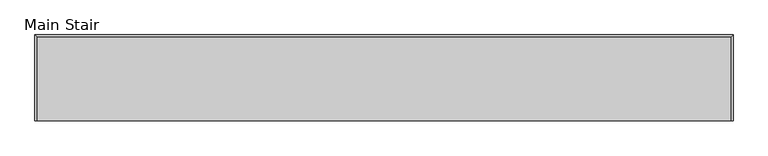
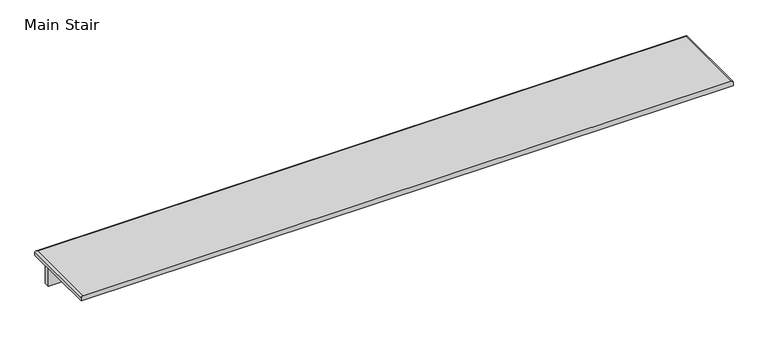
"""IFC4 building model written with IfcOpenShell, lengths in millimetres: stair flight geometry, Main Stair."""

import ifcopenshell
import ifcopenshell.guid

model = None  # the IFC model being written
_history = None  # IfcOwnerHistory: only IFC2X3 demands one
_inside = {}  # id of a spatial element -> (the spatial element, [elements in it])
_under = {}  # id of a project, library or spatial element -> (it, [spatial elements below it])
_declared = {}  # id of a project -> (the project, [libraries it declares])
_typed = {}  # id of a type object -> (the type object, [elements of that type])
_made_of = {}  # id of a material, layer set ... -> (it, [elements and type objects made of it])


def new_model(schema):
    """Start an empty IFC model of exactly this schema.

    Asked for "IFC4X3", IfcOpenShell would pick the latest addendum, in which some entities
    have other attributes; the version numbers below select the first issue.
    IFC2X3 requires an IfcOwnerHistory on every rooted entity: one is made here for all.
    """
    global model, _history
    if schema == "IFC4X3":
        model = ifcopenshell.file(schema_version=(4, 3, 0, 0))
    else:
        model = ifcopenshell.file(schema=schema)
    _inside.clear()
    _under.clear()
    _declared.clear()
    _typed.clear()
    _made_of.clear()
    _history = None
    if model.schema == "IFC2X3":
        org = make("IfcOrganization", Name="unknown")
        user = make(
            "IfcPersonAndOrganization",
            ThePerson=make("IfcPerson", FamilyName="unknown"),
            TheOrganization=org,
        )
        app = make(
            "IfcApplication",
            ApplicationDeveloper=org,
            Version="unknown",
            ApplicationFullName="unknown",
            ApplicationIdentifier="unknown",
        )
        _history = make(
            "IfcOwnerHistory",
            OwningUser=user,
            OwningApplication=app,
            ChangeAction="ADDED",
            CreationDate=0,
        )
    return model


def make(cls, **values):
    """One entity of the class cls with the attributes given. An attribute that is None is left unset."""
    return model.create_entity(
        cls, **{name: value for name, value in values.items() if value is not None}
    )


def rooted(cls, **values):
    """An entity with a GlobalId (a new one), such as an element, a storey or a relation."""
    return make(cls, GlobalId=ifcopenshell.guid.new(), OwnerHistory=_history, **values)


def si_unit(unit_type, name, prefix=None):
    """IfcSIUnit, for example si_unit("LENGTHUNIT", "METRE", prefix="MILLI")."""
    return make("IfcSIUnit", UnitType=unit_type, Prefix=prefix, Name=name)


def assignment(units):
    """IfcUnitAssignment: the units of a project."""
    return None if units is None else make("IfcUnitAssignment", Units=units)


def point(xyz):
    """IfcCartesianPoint."""
    return None if xyz is None else make("IfcCartesianPoint", Coordinates=xyz)


def direction(xyz):
    """IfcDirection."""
    return None if xyz is None else make("IfcDirection", DirectionRatios=xyz)


def frame(location, z_axis=None, x_axis=None):
    """IfcAxis2Placement3D, a coordinate frame: its origin and axes. An axis left out is left unset."""
    return make(
        "IfcAxis2Placement3D",
        Location=point(location),
        Axis=direction(z_axis),
        RefDirection=direction(x_axis),
    )


def origin():
    """The frame at (0, 0, 0) with its axes left unset."""
    return frame((0.0, 0.0, 0.0))


def place(relative_to, where):
    """IfcLocalPlacement: puts the frame where relative to a parent placement (None: the world)."""
    return make(
        "IfcLocalPlacement", PlacementRelTo=relative_to, RelativePlacement=where
    )


def context(
    kind, dimensions, precision=None, world=None, true_north=None, identifier=None
):
    """IfcGeometricRepresentationContext, for example the 3D "Model" context."""
    return make(
        "IfcGeometricRepresentationContext",
        ContextIdentifier=identifier,
        ContextType=kind,
        CoordinateSpaceDimension=dimensions,
        Precision=precision,
        WorldCoordinateSystem=world,
        TrueNorth=true_north,
    )


def project(units=None, contexts=None):
    """IfcProject with its units and contexts."""
    return rooted(
        "IfcProject",
        Name="project",
        RepresentationContexts=contexts,
        UnitsInContext=assignment(units),
    )


def spatial(cls, under=None, at=None, **own):
    """A site, building, storey or space (cls), placed at a placement, below another one or the project."""
    s = rooted(cls, ObjectPlacement=at, **own)
    if under is not None:
        _under.setdefault(under.id(), (under, []))[1].append(s)
    return s


def circle_curve(where, radius):
    """IfcCircle in the frame where."""
    return make("IfcCircle", Position=where, Radius=radius)


def ellipse_curve(where, semi_axis1, semi_axis2):
    """IfcEllipse in the frame where."""
    return make(
        "IfcEllipse", Position=where, SemiAxis1=semi_axis1, SemiAxis2=semi_axis2
    )


def faces_of(points, faces, orient=None, outer=None):
    """IfcFace entities. A face is a list of loops; a loop is a list of indices into points, from 0.

    orient and outer hold one flag for each loop. By default every Orientation is true, the
    first loop of a face is its IfcFaceOuterBound and the others are IfcFaceBound.
    """
    made = []
    for i, loops in enumerate(faces):
        bounds = []
        for j, loop in enumerate(loops):
            is_outer = j == 0 if outer is None else outer[i][j]
            bounds.append(
                make(
                    "IfcFaceOuterBound" if is_outer else "IfcFaceBound",
                    Bound=make("IfcPolyLoop", Polygon=[points[k] for k in loop]),
                    Orientation=True if orient is None else orient[i][j],
                )
            )
        made.append(make("IfcFace", Bounds=bounds))
    return made


def faceted_brep(points, faces, orient=None, outer=None, voids=None):
    """IfcFacetedBrep: a solid bounded by flat faces; with voids (closed shells), ...WithVoids."""
    shared = [point(p) for p in points]
    hull = make("IfcClosedShell", CfsFaces=faces_of(shared, faces, orient, outer))
    if voids is None:
        return make("IfcFacetedBrep", Outer=hull)
    return make(
        "IfcFacetedBrepWithVoids",
        Outer=hull,
        Voids=[
            make(cls, CfsFaces=faces_of(shared, fs, o, b)) for cls, fs, o, b in voids
        ],
    )


def shape(context_of_items, identifier, shape_type, items):
    """IfcShapeRepresentation: the items that make up one representation, for example the "Body"."""
    return make(
        "IfcShapeRepresentation",
        ContextOfItems=context_of_items,
        RepresentationIdentifier=identifier,
        RepresentationType=shape_type,
        Items=items,
    )


def source(mapping_origin, context_of_items, identifier, shape_type, items):
    """IfcRepresentationMap: a shape defined once, which mapped items show again and again."""
    return make(
        "IfcRepresentationMap",
        MappingOrigin=mapping_origin,
        MappedRepresentation=shape(context_of_items, identifier, shape_type, items),
    )


def transform(
    local_origin,
    x_axis=None,
    y_axis=None,
    z_axis=None,
    scale=None,
    scale2=None,
    scale3=None,
    uniform=True,
):
    """IfcCartesianTransformationOperator3D, or its non-uniform kind. x_axis, y_axis, z_axis: its Axis1, 2, 3."""
    if uniform:
        return make(
            "IfcCartesianTransformationOperator3D",
            Axis1=direction(x_axis),
            Axis2=direction(y_axis),
            LocalOrigin=point(local_origin),
            Scale=scale,
            Axis3=direction(z_axis),
        )
    return make(
        "IfcCartesianTransformationOperator3DnonUniform",
        Axis1=direction(x_axis),
        Axis2=direction(y_axis),
        LocalOrigin=point(local_origin),
        Scale=scale,
        Axis3=direction(z_axis),
        Scale2=scale2,
        Scale3=scale3,
    )


def mapped(mapping_source, mapping_target):
    """IfcMappedItem: shows the shape of a source again, moved by a transform."""
    return make(
        "IfcMappedItem", MappingSource=mapping_source, MappingTarget=mapping_target
    )


def made_of(thing, what):
    """Note that an element or type object is made of a material, layer set ...; save() writes the relation."""
    if what is not None:
        _made_of.setdefault(what.id(), (what, []))[1].append(thing)
    return thing


def element(
    cls,
    number,
    at=None,
    inside=None,
    cuts=None,
    type_object=None,
    material=None,
    context=None,
    identifier="Body",
    shape_type=None,
    held_by="IfcProductDefinitionShape",
    body=None,
    shapes=None,
    **own,
):
    """One element of the class cls, such as IfcWall. Its Tag is "e" and its number.

    at: its placement. inside: the storey or other place that contains it. cuts: it is an
    opening in that element (IfcRelVoidsElement). A single representation is given by context,
    identifier, shape_type and body (its items); several are given by shapes. held_by: the class
    of the entity that holds the representations. save() writes the other relations.
    """
    e = rooted(cls, Tag="e%d" % number, ObjectPlacement=at, **own)
    if body is not None:
        shapes = [shape(context, identifier, shape_type, body)]
    if shapes is not None:
        e.Representation = make(held_by, Representations=shapes)
    if inside is not None:
        _inside.setdefault(inside.id(), (inside, []))[1].append(e)
    if cuts is not None:
        rooted(
            "IfcRelVoidsElement", RelatingBuildingElement=cuts, RelatedOpeningElement=e
        )
    if type_object is not None:
        _typed.setdefault(type_object.id(), (type_object, []))[1].append(e)
    return made_of(e, material)


def aggregate(whole, parts):
    """IfcRelAggregates: a whole, such as a stair, and the parts it consists of."""
    return rooted("IfcRelAggregates", RelatingObject=whole, RelatedObjects=parts)


def save(model, path):
    """Write the relations noted so far, then the file.

    IfcRelAggregates (storeys below a building ...), IfcRelContainedInSpatialStructure (elements
    in a storey), IfcRelDefinesByType, IfcRelAssociatesMaterial and IfcRelDeclares: one each for
    every whole, place, type object, material and project.
    """
    for whole, parts in _under.values():
        aggregate(whole, parts)
    for where, things in _inside.values():
        rooted(
            "IfcRelContainedInSpatialStructure",
            RelatedElements=things,
            RelatingStructure=where,
        )
    for kind, things in _typed.values():
        rooted("IfcRelDefinesByType", RelatedObjects=things, RelatingType=kind)
    for what, things in _made_of.values():
        rooted("IfcRelAssociatesMaterial", RelatedObjects=things, RelatingMaterial=what)
    for by, libraries in _declared.values():
        rooted("IfcRelDeclares", RelatingContext=by, RelatedDefinitions=libraries)
    model.write(path)


def plane_surface(at):
    """IfcPlane: the flat surface through the origin of the frame at, square to its z axis."""
    return make("IfcPlane", Position=at)


def cylinder_surface(at, radius):
    """IfcCylindricalSurface: all points at the distance radius from the z axis of the frame at."""
    return make("IfcCylindricalSurface", Position=at, Radius=radius)


def advanced_brep(points, edges, surfaces, faces):
    """IfcAdvancedBrep: a solid bounded by faces that lie on surfaces and meet in shared edges.

    An edge is (start, end): straight between two places in points (the first is 0);
    or (start, end, curve); or (start, end, curve, False) where it runs against its curve.
    A face is (place in surfaces, loops), or (place, loops, False) where it looks against
    its surface's normal. A loop lists edges by number (the first is 1), with a minus sign
    where the edge is run from its end to its start. The first loop is the outer one.
    """
    corners = [point(p) for p in points]
    vertices = [make("IfcVertexPoint", VertexGeometry=c) for c in corners]
    made = []
    for start, end, *more in edges:
        made.append(
            make(
                "IfcEdgeCurve",
                EdgeStart=vertices[start],
                EdgeEnd=vertices[end],
                EdgeGeometry=more[0] if more else make("IfcPolyline", Points=[corners[start], corners[end]]),
                SameSense=more[1] if len(more) > 1 else True,
            )
        )
    hull = []
    for where, loops, *sense in faces:
        bounds = []
        for j, loop in enumerate(loops):
            ring = [make("IfcOrientedEdge", EdgeElement=made[abs(k) - 1], Orientation=k > 0) for k in loop]
            bounds.append(
                make(
                    "IfcFaceOuterBound" if j == 0 else "IfcFaceBound",
                    Bound=make("IfcEdgeLoop", EdgeList=ring),
                    Orientation=True,
                )
            )
        hull.append(make("IfcAdvancedFace", Bounds=bounds, FaceSurface=surfaces[where], SameSense=sense[0] if sense else True))
    return make("IfcAdvancedBrep", Outer=make("IfcClosedShell", CfsFaces=hull))


def main_stair_ad759e80(model_context):
    return source(origin(), model_context, "Body", "SolidModel", [
        advanced_brep(
        [(-3391.5211294, -1195.6439898, -82.0928), (-3385.1711294, -1195.6439898, -75.7428), (-3385.1711294, -897.1939898, -75.7428), (-3391.5211294, -890.8439898, -82.0928), (-3391.5211294, -1195.6439898, -94.7928), (-3391.5211294, -890.8439898, -94.7928), (-915.3632624, -897.1939898, -75.7428), (-909.0132624, -890.8439898, -82.0928), (-909.0132624, -890.8439898, -94.7928), (-915.3632624, -1195.6439898, -75.7428), (-909.0132624, -1195.6439898, -82.0928), (-909.0132624, -1195.6439898, -94.7928)],
        [
            (0, 1, circle_curve(frame((-3385.1711294, -1195.6439898, -82.0928), z_axis=(0.0, 1.0, 0.0), x_axis=(1.0, 0.0, 0.0)), 6.35)),
            (1, 2),
            (2, 3, ellipse_curve(frame((-3385.1711294, -897.1939898, -82.0928), z_axis=(-0.7071067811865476, -0.7071067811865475, 0.0), x_axis=(0.7071067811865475, -0.7071067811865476, 0.0)), 8.9802561, 6.35)),
            (3, 0),
            (4, 0),
            (3, 5),
            (5, 4),
            (2, 6),
            (6, 7, ellipse_curve(frame((-915.3632624, -897.1939898, -82.0928), z_axis=(-0.7071067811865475, 0.7071067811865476, 0.0), x_axis=(-0.7071067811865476, -0.7071067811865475, 0.0)), 8.9802561, 6.35)),
            (7, 3),
            (7, 8),
            (8, 5),
            (6, 9),
            (9, 10, circle_curve(frame((-915.3632624, -1195.6439898, -82.0928), z_axis=(0.0, 1.0, 0.0), x_axis=(-1.0, 0.0, 0.0)), 6.35)),
            (10, 7),
            (10, 11),
            (11, 8),
            (1, 9),
            (11, 4),
        ],
        [
            cylinder_surface(frame((-3385.1711294, -1195.6439898, -82.0928), z_axis=(0.0, -1.0, 0.0), x_axis=(1.0, 0.0, 0.0)), 6.35),
            plane_surface(frame((-3391.5211294, -1195.6439898, -82.0928), z_axis=(-1.0, 0.0, 0.0), x_axis=(0.0, 1.0, 0.0))),
            cylinder_surface(frame((-3366.1211294, -897.1939898, -82.0928), z_axis=(-1.0, 0.0, 0.0), x_axis=(0.0, -1.0, 0.0)), 6.35),
            plane_surface(frame((-3391.5211294, -890.8439898, -82.0928), z_axis=(0.0, 1.0, 0.0), x_axis=(1.0, 0.0, 0.0))),
            cylinder_surface(frame((-915.3632624, -916.2439898, -82.0928), z_axis=(0.0, 1.0, 0.0), x_axis=(-1.0, 0.0, 0.0)), 6.35),
            plane_surface(frame((-909.0132624, -890.8439898, -82.0928), z_axis=(1.0, 0.0, 0.0), x_axis=(0.0, -1.0, 0.0))),
            plane_surface(frame((-934.4132624, -890.8439898, -75.7428), z_axis=(0.0, 0.0, 1.0), x_axis=(0.0, 1.0, 0.0))),
            plane_surface(frame((-934.4132624, -890.8439898, -94.7928), z_axis=(0.0, 0.0, -1.0), x_axis=(0.0, -1.0, 0.0))),
            plane_surface(frame((-3366.1211294, -1195.6439898, -75.7428), z_axis=(0.0, -1.0, 0.0), x_axis=(0.0, 0.0, -1.0))),
        ],
        [
            (0, [[1, 2, 3, 4]]),
            (1, [[5, -4, 6, 7]]),
            (2, [[-3, 8, 9, 10]]),
            (3, [[-6, -10, 11, 12]]),
            (4, [[-9, 13, 14, 15]]),
            (5, [[-11, -15, 16, 17]]),
            (6, [[-13, -8, -2, 18]]),
            (7, [[-7, -12, -17, 19]]),
            (8, [[-18, -1, -5, -19, -16, -14]]),
        ],
    ),
        faceted_brep([(-3366.1211294, -916.2439898, -94.7928), (-3366.1211294, -916.2439898, -202.5904), (-3366.1211294, -935.2939898, -202.5904), (-3366.1211294, -935.2939898, -94.7928), (-934.4132624, -916.2439898, -94.7928), (-934.4132624, -935.2939898, -94.7928), (-934.4132624, -935.2939898, -202.5904), (-934.4132624, -916.2439898, -202.5904)], [[[0, 1, 2, 3]], [[4, 5, 6, 7]], [[1, 0, 4, 7]], [[2, 1, 7, 6]], [[3, 2, 6, 5]], [[0, 3, 5, 4]]]),
    ])


if __name__ == "__main__":
    model = new_model("IFC4")
    model_context = context("Model", 3, world=origin())
    ifc_project = project(units=[si_unit("LENGTHUNIT", "METRE", prefix="MILLI")], contexts=[model_context])
    site = spatial("IfcSite", under=ifc_project)
    building = spatial("IfcBuilding", under=site)
    placement = place(None, origin())
    main_stair_shape = main_stair_ad759e80(model_context)
    element("IfcStairFlight", 1, ObjectType="Main Stair", at=placement, inside=building, context=model_context, shape_type="MappedRepresentation", body=[
        mapped(main_stair_shape, transform((0.0, 0.0, 0.0), x_axis=(1.0, 0.0, 0.0), y_axis=(0.0, 1.0, 0.0), z_axis=(0.0, 0.0, 1.0))),
    ])
    save(model, "model.ifc")
